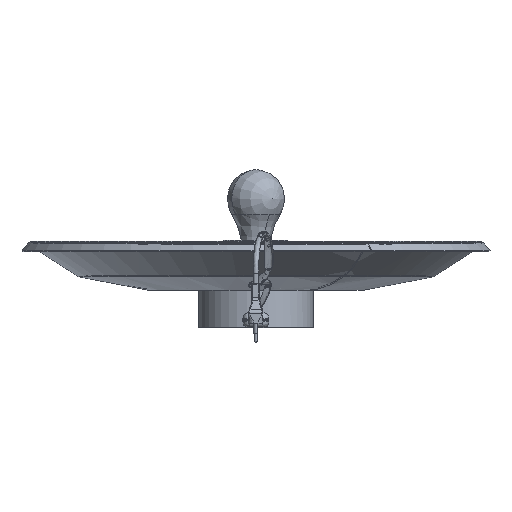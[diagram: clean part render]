
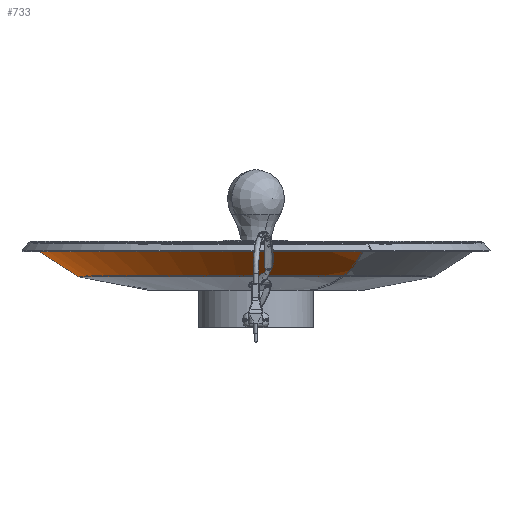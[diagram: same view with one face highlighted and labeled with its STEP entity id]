
A CAD part, front view. The second image highlights one B-rep face of the part: STEP entity #733.
In plain terms, the highlighted free-form (B-spline) face has degree [2, 2] with [9, 9] control points.
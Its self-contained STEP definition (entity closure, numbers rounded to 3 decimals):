
#733=ADVANCED_FACE('',(#1084),#5244,.T.);
#1084=FACE_OUTER_BOUND('',#1437,.T.);
#1437=EDGE_LOOP('',(#1904,#1905,#1906,#1907));
#1904=ORIENTED_EDGE('',*,*,#3482,.F.);
#1905=ORIENTED_EDGE('',*,*,#3484,.T.);
#1906=ORIENTED_EDGE('',*,*,#3485,.T.);
#1907=ORIENTED_EDGE('',*,*,#3486,.F.);
#3482=EDGE_CURVE('',#4592,#4593,#4288,.T.);
#3484=EDGE_CURVE('',#4592,#4594,#4290,.T.);
#3485=EDGE_CURVE('',#4594,#4595,#4291,.T.);
#3486=EDGE_CURVE('',#4593,#4595,#4292,.T.);
#4288=(
BOUNDED_CURVE()
B_SPLINE_CURVE(2,(#9018,#9019,#9020,#9021,#9022),.UNSPECIFIED.,.F.,.F.)
B_SPLINE_CURVE_WITH_KNOTS((3,2,3),(0.,278.837,557.675),
 .UNSPECIFIED.)
CURVE()
GEOMETRIC_REPRESENTATION_ITEM()
RATIONAL_B_SPLINE_CURVE((1.,0.707,1.,0.707,1.))
REPRESENTATION_ITEM('')
);
#4290=(
BOUNDED_CURVE()
B_SPLINE_CURVE(2,(#9026,#9027,#9028),.UNSPECIFIED.,.F.,.F.)
B_SPLINE_CURVE_WITH_KNOTS((3,3),(0.,46.851),.UNSPECIFIED.)
CURVE()
GEOMETRIC_REPRESENTATION_ITEM()
RATIONAL_B_SPLINE_CURVE((1.,0.975,1.))
REPRESENTATION_ITEM('')
);
#4291=(
BOUNDED_CURVE()
B_SPLINE_CURVE(2,(#9029,#9030,#9031,#9032,#9033),.UNSPECIFIED.,.F.,.F.)
B_SPLINE_CURVE_WITH_KNOTS((3,2,3),(0.,340.189,680.379),
 .UNSPECIFIED.)
CURVE()
GEOMETRIC_REPRESENTATION_ITEM()
RATIONAL_B_SPLINE_CURVE((1.,0.707,1.,0.707,1.))
REPRESENTATION_ITEM('')
);
#4292=(
BOUNDED_CURVE()
B_SPLINE_CURVE(2,(#9034,#9035,#9036),.UNSPECIFIED.,.F.,.F.)
B_SPLINE_CURVE_WITH_KNOTS((3,3),(531.475,578.327),
 .UNSPECIFIED.)
CURVE()
GEOMETRIC_REPRESENTATION_ITEM()
RATIONAL_B_SPLINE_CURVE((1.,0.975,1.))
REPRESENTATION_ITEM('')
);
#4592=VERTEX_POINT('',#8869);
#4593=VERTEX_POINT('',#8870);
#4594=VERTEX_POINT('',#8871);
#4595=VERTEX_POINT('',#8872);
#5244=(
BOUNDED_SURFACE()
B_SPLINE_SURFACE(2,2,((#7438,#7439,#7440,#7441,#7442,#7443,#7444,#7445,
#7446),(#7447,#7448,#7449,#7450,#7451,#7452,#7453,#7454,#7455),(#7456,#7457,
#7458,#7459,#7460,#7461,#7462,#7463,#7464),(#7465,#7466,#7467,#7468,#7469,
#7470,#7471,#7472,#7473),(#7474,#7475,#7476,#7477,#7478,#7479,#7480,#7481,
#7482),(#7483,#7484,#7485,#7486,#7487,#7488,#7489,#7490,#7491),(#7492,#7493,
#7494,#7495,#7496,#7497,#7498,#7499,#7500),(#7501,#7502,#7503,#7504,#7505,
#7506,#7507,#7508,#7509),(#7510,#7511,#7512,#7513,#7514,#7515,#7516,#7517,
#7518)),.UNSPECIFIED.,.T.,.F.,.F.)
B_SPLINE_SURFACE_WITH_KNOTS((3,2,2,2,3),(3,2,2,2,3),(0.,222.393,
444.787,667.18,889.573),(0.,164.934,
329.867,494.801,659.734),.UNSPECIFIED.)
GEOMETRIC_REPRESENTATION_ITEM()
RATIONAL_B_SPLINE_SURFACE(((1.,0.707,1.,0.707,1.,
0.707,1.,0.707,1.),(0.707,0.5,0.707,
0.5,0.707,0.5,0.707,0.5,0.707),(1.,
0.707,1.,0.707,1.,0.707,1.,0.707,
1.),(0.707,0.5,0.707,0.5,0.707,0.5,
0.707,0.5,0.707),(1.,0.707,1.,0.707,
1.,0.707,1.,0.707,1.),(0.707,0.5,0.707,
0.5,0.707,0.5,0.707,0.5,0.707),(1.,
0.707,1.,0.707,1.,0.707,1.,0.707,
1.),(0.707,0.5,0.707,0.5,0.707,0.5,
0.707,0.5,0.707),(1.,0.707,1.,0.707,
1.,0.707,1.,0.707,1.)))
REPRESENTATION_ITEM('')
SURFACE()
);
#7438=CARTESIAN_POINT('',(-122.056,214.252,149.125));
#7439=CARTESIAN_POINT('',(-122.056,214.252,254.125));
#7440=CARTESIAN_POINT('',(-70.081,123.018,254.125));
#7441=CARTESIAN_POINT('',(-18.107,31.784,254.125));
#7442=CARTESIAN_POINT('',(-18.107,31.784,149.125));
#7443=CARTESIAN_POINT('',(-18.107,31.784,44.125));
#7444=CARTESIAN_POINT('',(-70.081,123.018,44.125));
#7445=CARTESIAN_POINT('',(-122.056,214.252,44.125));
#7446=CARTESIAN_POINT('',(-122.056,214.252,149.125));
#7447=CARTESIAN_POINT('',(-336.308,92.197,149.125));
#7448=CARTESIAN_POINT('',(-336.308,92.197,254.125));
#7449=CARTESIAN_POINT('',(-193.1,52.937,254.125));
#7450=CARTESIAN_POINT('',(-49.891,13.677,254.125));
#7451=CARTESIAN_POINT('',(-49.891,13.677,149.125));
#7452=CARTESIAN_POINT('',(-49.891,13.677,44.125));
#7453=CARTESIAN_POINT('',(-193.1,52.937,44.125));
#7454=CARTESIAN_POINT('',(-336.308,92.197,44.125));
#7455=CARTESIAN_POINT('',(-336.308,92.197,149.125));
#7456=CARTESIAN_POINT('',(-214.252,-122.056,149.125));
#7457=CARTESIAN_POINT('',(-214.252,-122.056,254.125));
#7458=CARTESIAN_POINT('',(-123.018,-70.081,254.125));
#7459=CARTESIAN_POINT('',(-31.784,-18.107,254.125));
#7460=CARTESIAN_POINT('',(-31.784,-18.107,149.125));
#7461=CARTESIAN_POINT('',(-31.784,-18.107,44.125));
#7462=CARTESIAN_POINT('',(-123.018,-70.081,44.125));
#7463=CARTESIAN_POINT('',(-214.252,-122.056,44.125));
#7464=CARTESIAN_POINT('',(-214.252,-122.056,149.125));
#7465=CARTESIAN_POINT('',(-92.197,-336.308,149.125));
#7466=CARTESIAN_POINT('',(-92.197,-336.308,254.125));
#7467=CARTESIAN_POINT('',(-52.937,-193.1,254.125));
#7468=CARTESIAN_POINT('',(-13.677,-49.891,254.125));
#7469=CARTESIAN_POINT('',(-13.677,-49.891,149.125));
#7470=CARTESIAN_POINT('',(-13.677,-49.891,44.125));
#7471=CARTESIAN_POINT('',(-52.937,-193.1,44.125));
#7472=CARTESIAN_POINT('',(-92.197,-336.308,44.125));
#7473=CARTESIAN_POINT('',(-92.197,-336.308,149.125));
#7474=CARTESIAN_POINT('',(122.056,-214.252,149.125));
#7475=CARTESIAN_POINT('',(122.056,-214.252,254.125));
#7476=CARTESIAN_POINT('',(70.081,-123.018,254.125));
#7477=CARTESIAN_POINT('',(18.107,-31.784,254.125));
#7478=CARTESIAN_POINT('',(18.107,-31.784,149.125));
#7479=CARTESIAN_POINT('',(18.107,-31.784,44.125));
#7480=CARTESIAN_POINT('',(70.081,-123.018,44.125));
#7481=CARTESIAN_POINT('',(122.056,-214.252,44.125));
#7482=CARTESIAN_POINT('',(122.056,-214.252,149.125));
#7483=CARTESIAN_POINT('',(336.308,-92.197,149.125));
#7484=CARTESIAN_POINT('',(336.308,-92.197,254.125));
#7485=CARTESIAN_POINT('',(193.1,-52.937,254.125));
#7486=CARTESIAN_POINT('',(49.891,-13.677,254.125));
#7487=CARTESIAN_POINT('',(49.891,-13.677,149.125));
#7488=CARTESIAN_POINT('',(49.891,-13.677,44.125));
#7489=CARTESIAN_POINT('',(193.1,-52.937,44.125));
#7490=CARTESIAN_POINT('',(336.308,-92.197,44.125));
#7491=CARTESIAN_POINT('',(336.308,-92.197,149.125));
#7492=CARTESIAN_POINT('',(214.252,122.056,149.125));
#7493=CARTESIAN_POINT('',(214.252,122.056,254.125));
#7494=CARTESIAN_POINT('',(123.018,70.081,254.125));
#7495=CARTESIAN_POINT('',(31.784,18.107,254.125));
#7496=CARTESIAN_POINT('',(31.784,18.107,149.125));
#7497=CARTESIAN_POINT('',(31.784,18.107,44.125));
#7498=CARTESIAN_POINT('',(123.018,70.081,44.125));
#7499=CARTESIAN_POINT('',(214.252,122.056,44.125));
#7500=CARTESIAN_POINT('',(214.252,122.056,149.125));
#7501=CARTESIAN_POINT('',(92.197,336.308,149.125));
#7502=CARTESIAN_POINT('',(92.197,336.308,254.125));
#7503=CARTESIAN_POINT('',(52.937,193.1,254.125));
#7504=CARTESIAN_POINT('',(13.677,49.891,254.125));
#7505=CARTESIAN_POINT('',(13.677,49.891,149.125));
#7506=CARTESIAN_POINT('',(13.677,49.891,44.125));
#7507=CARTESIAN_POINT('',(52.937,193.1,44.125));
#7508=CARTESIAN_POINT('',(92.197,336.308,44.125));
#7509=CARTESIAN_POINT('',(92.197,336.308,149.125));
#7510=CARTESIAN_POINT('',(-122.056,214.252,149.125));
#7511=CARTESIAN_POINT('',(-122.056,214.252,254.125));
#7512=CARTESIAN_POINT('',(-70.081,123.018,254.125));
#7513=CARTESIAN_POINT('',(-18.107,31.784,254.125));
#7514=CARTESIAN_POINT('',(-18.107,31.784,149.125));
#7515=CARTESIAN_POINT('',(-18.107,31.784,44.125));
#7516=CARTESIAN_POINT('',(-70.081,123.018,44.125));
#7517=CARTESIAN_POINT('',(-122.056,214.252,44.125));
#7518=CARTESIAN_POINT('',(-122.056,214.252,149.125));
#8869=CARTESIAN_POINT('',(87.868,-154.241,50.465));
#8870=CARTESIAN_POINT('',(-87.868,154.241,50.465));
#8871=CARTESIAN_POINT('',(107.202,-188.178,75.631));
#8872=CARTESIAN_POINT('',(-107.202,188.178,75.631));
#9018=CARTESIAN_POINT('',(87.868,-154.241,50.465));
#9019=CARTESIAN_POINT('',(-66.373,-242.109,50.465));
#9020=CARTESIAN_POINT('',(-154.241,-87.868,50.465));
#9021=CARTESIAN_POINT('',(-242.109,66.373,50.465));
#9022=CARTESIAN_POINT('',(-87.868,154.241,50.465));
#9026=CARTESIAN_POINT('',(87.868,-154.241,50.465));
#9027=CARTESIAN_POINT('',(98.948,-173.69,58.617));
#9028=CARTESIAN_POINT('',(107.202,-188.178,75.631));
#9029=CARTESIAN_POINT('',(107.202,-188.178,75.631));
#9030=CARTESIAN_POINT('',(-80.976,-295.38,75.631));
#9031=CARTESIAN_POINT('',(-188.178,-107.202,75.631));
#9032=CARTESIAN_POINT('',(-295.38,80.976,75.631));
#9033=CARTESIAN_POINT('',(-107.202,188.178,75.631));
#9034=CARTESIAN_POINT('',(-87.868,154.241,50.465));
#9035=CARTESIAN_POINT('',(-98.948,173.69,58.617));
#9036=CARTESIAN_POINT('',(-107.202,188.178,75.631));
